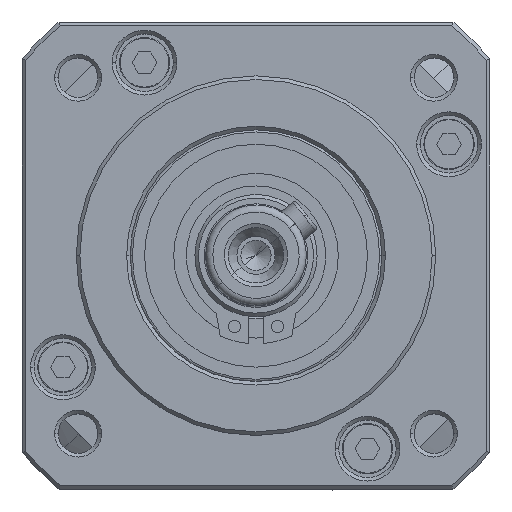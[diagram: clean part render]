
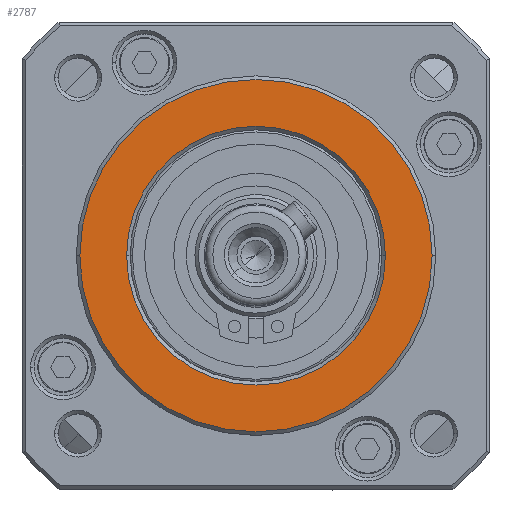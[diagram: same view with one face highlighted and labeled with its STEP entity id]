
A CAD part, top view. The second image highlights one B-rep face of the part: STEP entity #2787.
In plain terms, the highlighted planar face has unit normal (0, 0, 1).
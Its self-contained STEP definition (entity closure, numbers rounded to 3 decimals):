
#204 = EDGE_LOOP ( 'NONE', ( #48119, #14193 ) ) ;
#753 = DIRECTION ( 'NONE',  ( -1., 0., 0. ) ) ;
#1955 = CARTESIAN_POINT ( 'NONE',  ( -20.147, 10.389, 76.75 ) ) ;
#2207 = CIRCLE ( 'NONE', #26900, 18. ) ;
#2726 = DIRECTION ( 'NONE',  ( 0., 0., -1. ) ) ;
#2787 = ADVANCED_FACE ( 'NONE', ( #44268, #24281 ), #12111, .F. ) ;
#3684 = AXIS2_PLACEMENT_3D ( 'NONE', #1955, #22578, #6323 ) ;
#6323 = DIRECTION ( 'NONE',  ( -1., 0., 0. ) ) ;
#8032 = CARTESIAN_POINT ( 'NONE',  ( 4.353, 10.389, 76.75 ) ) ;
#9227 = EDGE_CURVE ( 'NONE', #10919, #43412, #47841, .T. ) ;
#9435 = CARTESIAN_POINT ( 'NONE',  ( -2.147, 10.389, 76.75 ) ) ;
#10919 = VERTEX_POINT ( 'NONE', #12349 ) ;
#11543 = AXIS2_PLACEMENT_3D ( 'NONE', #50173, #15694, #31239 ) ;
#12111 = PLANE ( 'NONE',  #11543 ) ;
#12349 = CARTESIAN_POINT ( 'NONE',  ( -44.647, 10.389, 76.75 ) ) ;
#14193 = ORIENTED_EDGE ( 'NONE', *, *, #47686, .T. ) ;
#15156 = ORIENTED_EDGE ( 'NONE', *, *, #46881, .T. ) ;
#15694 = DIRECTION ( 'NONE',  ( 0., 0., -1. ) ) ;
#16457 = VERTEX_POINT ( 'NONE', #30234 ) ;
#17801 = DIRECTION ( 'NONE',  ( -1., 0., 0. ) ) ;
#18559 = ORIENTED_EDGE ( 'NONE', *, *, #21770, .T. ) ;
#20357 = DIRECTION ( 'NONE',  ( 0., 0., 1. ) ) ;
#21770 = EDGE_CURVE ( 'NONE', #47281, #16457, #45732, .T. ) ;
#22578 = DIRECTION ( 'NONE',  ( 0., 0., 1. ) ) ;
#22775 = EDGE_LOOP ( 'NONE', ( #18559, #15156 ) ) ;
#24281 = FACE_OUTER_BOUND ( 'NONE', #204, .T. ) ;
#26900 = AXIS2_PLACEMENT_3D ( 'NONE', #33349, #2726, #17801 ) ;
#30234 = CARTESIAN_POINT ( 'NONE',  ( -38.147, 10.389, 76.75 ) ) ;
#31228 = DIRECTION ( 'NONE',  ( -1., 0., 0. ) ) ;
#31239 = DIRECTION ( 'NONE',  ( -1., 0., 0. ) ) ;
#33349 = CARTESIAN_POINT ( 'NONE',  ( -20.147, 10.389, 76.75 ) ) ;
#41100 = AXIS2_PLACEMENT_3D ( 'NONE', #42569, #46094, #31228 ) ;
#42569 = CARTESIAN_POINT ( 'NONE',  ( -20.147, 10.389, 76.75 ) ) ;
#43412 = VERTEX_POINT ( 'NONE', #8032 ) ;
#44065 = AXIS2_PLACEMENT_3D ( 'NONE', #46916, #20357, #753 ) ;
#44268 = FACE_BOUND ( 'NONE', #22775, .T. ) ;
#45732 = CIRCLE ( 'NONE', #41100, 18. ) ;
#46094 = DIRECTION ( 'NONE',  ( 0., 0., -1. ) ) ;
#46881 = EDGE_CURVE ( 'NONE', #16457, #47281, #2207, .T. ) ;
#46916 = CARTESIAN_POINT ( 'NONE',  ( -20.147, 10.389, 76.75 ) ) ;
#47281 = VERTEX_POINT ( 'NONE', #9435 ) ;
#47686 = EDGE_CURVE ( 'NONE', #43412, #10919, #48107, .T. ) ;
#47841 = CIRCLE ( 'NONE', #3684, 24.5 ) ;
#48107 = CIRCLE ( 'NONE', #44065, 24.5 ) ;
#48119 = ORIENTED_EDGE ( 'NONE', *, *, #9227, .T. ) ;
#50173 = CARTESIAN_POINT ( 'NONE',  ( -20.147, 10.389, 76.75 ) ) ;
